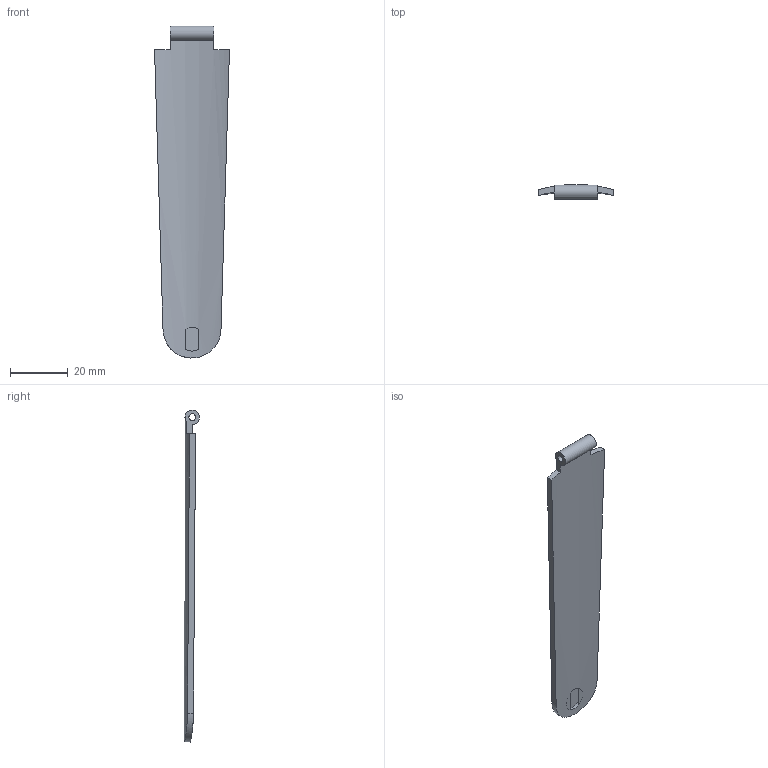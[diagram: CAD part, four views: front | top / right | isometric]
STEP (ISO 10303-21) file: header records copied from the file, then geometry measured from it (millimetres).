
FILE_DESCRIPTION(('Open CASCADE Model'),'2;1');
FILE_NAME('Open CASCADE Shape Model','2026-11-11T19:28:18',('Author'),( 'Open CASCADE'),'Open CASCADE STEP processor 7.9','Open CASCADE 7.9' ,'Unknown');
FILE_SCHEMA(('AUTOMOTIVE_DESIGN { 1 0 10303 214 1 1 1 1 }'));
Length unit declared in the file: millimetre
Products named in the file (1): Open CASCADE STEP translator 7.9 11
Bounding box: 25.85 x 5.19 x 114.48 mm (x, y, z)
Volume: 5061.5 mm3; surface area: 5806.6 mm2
Topology: 1 solids, 1 shells, 18 faces, 43 edges, 28 vertices
Faces by surface type: plane 10, cylinder 8
Full cylindrical faces by diameter (mm): 2.4 x1, 8.2 x1
Entity records: 1971 total; most frequent: CARTESIAN_POINT 1121, DIRECTION 152, ORIENTED_EDGE 86, PCURVE 86, DEFINITIONAL_REPRESENTATION 86, LINE 66, VECTOR 66, EDGE_CURVE 43
